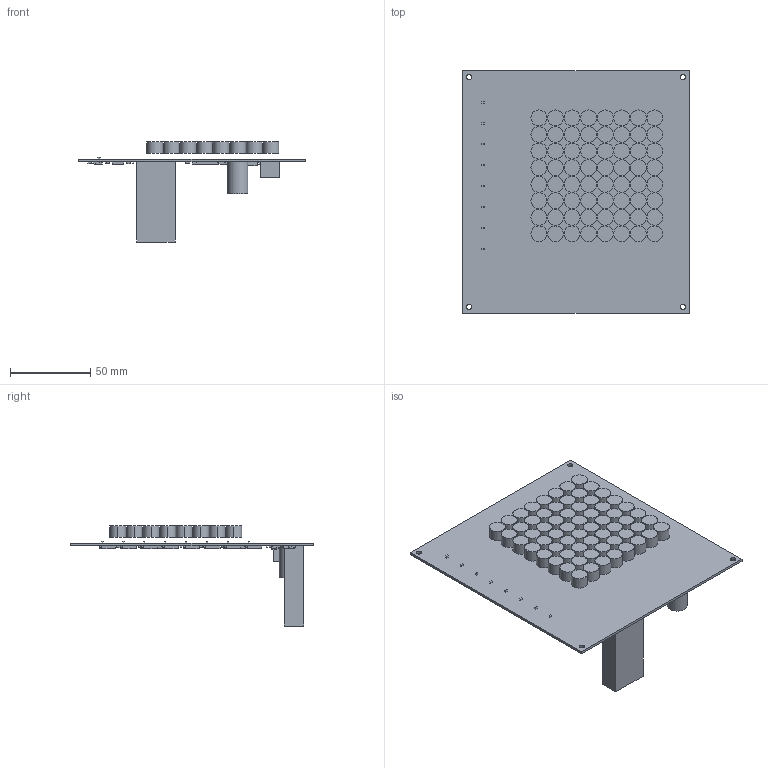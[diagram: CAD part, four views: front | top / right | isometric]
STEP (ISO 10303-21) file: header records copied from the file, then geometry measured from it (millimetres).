
FILE_DESCRIPTION (( 'STEP AP203' ), '1' );
FILE_NAME ('REF_tx8_electronics.step', '2026-10-15T10:08:47', ( '' ), ( '' ), 'SwSTEP 2.0', 'SolidWorks 2025', '' );
FILE_SCHEMA (( 'CONFIG_CONTROL_DESIGN' ));
Length unit declared in the file: millimetre
Products named in the file (1): REF_tx8_electronics
Bounding box: 141 x 151 x 62.2 mm (x, y, z)
Volume: 89667.5 mm3; surface area: 79291.9 mm2
Topology: 326 solids, 326 shells, 1834 faces, 3546 edges, 2364 vertices
Faces by surface type: plane 1696, cylinder 138
Entity records: 45249 total; most frequent: CARTESIAN_POINT 7745, DIRECTION 7492, ORIENTED_EDGE 7092, EDGE_CURVE 3546, LINE 3270, VECTOR 3270, VERTEX_POINT 2364, AXIS2_PLACEMENT_3D 2111
